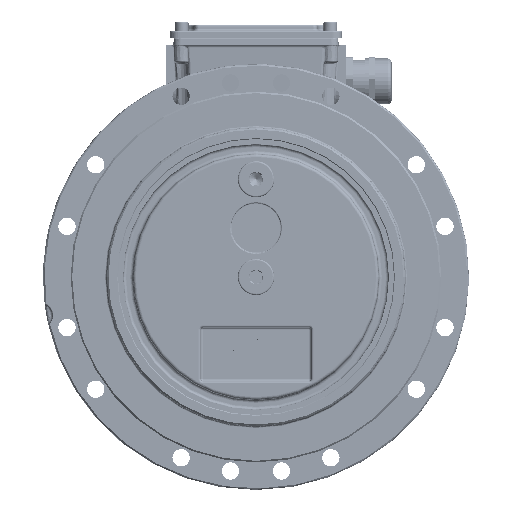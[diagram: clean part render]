
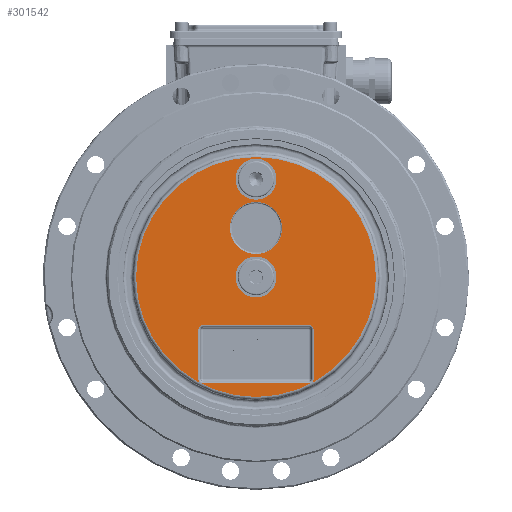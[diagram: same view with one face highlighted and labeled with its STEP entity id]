
A CAD part, front view. The second image highlights one B-rep face of the part: STEP entity #301542.
In plain terms, the highlighted planar face has unit normal (0, -1, 0).
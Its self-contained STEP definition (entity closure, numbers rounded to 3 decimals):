
#8701=PLANE('',#327935);
#18274=FACE_BOUND('',#95057,.T.);
#18275=FACE_BOUND('',#95058,.T.);
#18276=FACE_BOUND('',#95059,.T.);
#18277=FACE_BOUND('',#95060,.T.);
#35482=LINE('',#632447,#56949);
#35483=LINE('',#632451,#56950);
#35484=LINE('',#632455,#56951);
#35485=LINE('',#632459,#56952);
#56949=VECTOR('',#395384,1.);
#56950=VECTOR('',#395387,1.);
#56951=VECTOR('',#395390,1.);
#56952=VECTOR('',#395393,1.);
#77439=FACE_OUTER_BOUND('',#95056,.T.);
#95056=EDGE_LOOP('',(#245375));
#95057=EDGE_LOOP('',(#245376));
#95058=EDGE_LOOP('',(#245377));
#95059=EDGE_LOOP('',(#245378));
#95060=EDGE_LOOP('',(#245379,#245380,#245381,#245382,#245383,#245384,#245385,
#245386));
#112353=CIRCLE('',#327936,76.);
#112354=CIRCLE('',#327937,13.);
#112355=CIRCLE('',#327938,13.);
#112356=CIRCLE('',#327939,16.5);
#112357=CIRCLE('',#327940,3.);
#112358=CIRCLE('',#327941,3.);
#112359=CIRCLE('',#327942,3.);
#112360=CIRCLE('',#327943,3.);
#137322=VERTEX_POINT('',#632437);
#137323=VERTEX_POINT('',#632439);
#137324=VERTEX_POINT('',#632441);
#137325=VERTEX_POINT('',#632443);
#137326=VERTEX_POINT('',#632445);
#137327=VERTEX_POINT('',#632446);
#137328=VERTEX_POINT('',#632448);
#137329=VERTEX_POINT('',#632450);
#137330=VERTEX_POINT('',#632452);
#137331=VERTEX_POINT('',#632454);
#137332=VERTEX_POINT('',#632456);
#137333=VERTEX_POINT('',#632458);
#175362=EDGE_CURVE('',#137322,#137322,#112353,.T.);
#175363=EDGE_CURVE('',#137323,#137323,#112354,.T.);
#175364=EDGE_CURVE('',#137324,#137324,#112355,.T.);
#175365=EDGE_CURVE('',#137325,#137325,#112356,.T.);
#175366=EDGE_CURVE('',#137326,#137327,#35482,.T.);
#175367=EDGE_CURVE('',#137327,#137328,#112357,.T.);
#175368=EDGE_CURVE('',#137328,#137329,#35483,.T.);
#175369=EDGE_CURVE('',#137329,#137330,#112358,.T.);
#175370=EDGE_CURVE('',#137330,#137331,#35484,.T.);
#175371=EDGE_CURVE('',#137331,#137332,#112359,.T.);
#175372=EDGE_CURVE('',#137332,#137333,#35485,.T.);
#175373=EDGE_CURVE('',#137333,#137326,#112360,.T.);
#245375=ORIENTED_EDGE('',*,*,#175362,.T.);
#245376=ORIENTED_EDGE('',*,*,#175363,.T.);
#245377=ORIENTED_EDGE('',*,*,#175364,.T.);
#245378=ORIENTED_EDGE('',*,*,#175365,.T.);
#245379=ORIENTED_EDGE('',*,*,#175366,.T.);
#245380=ORIENTED_EDGE('',*,*,#175367,.T.);
#245381=ORIENTED_EDGE('',*,*,#175368,.T.);
#245382=ORIENTED_EDGE('',*,*,#175369,.T.);
#245383=ORIENTED_EDGE('',*,*,#175370,.T.);
#245384=ORIENTED_EDGE('',*,*,#175371,.T.);
#245385=ORIENTED_EDGE('',*,*,#175372,.T.);
#245386=ORIENTED_EDGE('',*,*,#175373,.T.);
#301542=ADVANCED_FACE('',(#77439,#18274,#18275,#18276,#18277),#8701,.T.);
#327935=AXIS2_PLACEMENT_3D('',#632436,#395374,#395375);
#327936=AXIS2_PLACEMENT_3D('',#632438,#395376,#395377);
#327937=AXIS2_PLACEMENT_3D('',#632440,#395378,#395379);
#327938=AXIS2_PLACEMENT_3D('',#632442,#395380,#395381);
#327939=AXIS2_PLACEMENT_3D('',#632444,#395382,#395383);
#327940=AXIS2_PLACEMENT_3D('',#632449,#395385,#395386);
#327941=AXIS2_PLACEMENT_3D('',#632453,#395388,#395389);
#327942=AXIS2_PLACEMENT_3D('',#632457,#395391,#395392);
#327943=AXIS2_PLACEMENT_3D('',#632460,#395394,#395395);
#395374=DIRECTION('center_axis',(0.,-1.,0.));
#395375=DIRECTION('ref_axis',(0.,0.,
1.));
#395376=DIRECTION('center_axis',(0.,-1.,0.));
#395377=DIRECTION('ref_axis',(0.,0.,
1.));
#395378=DIRECTION('center_axis',(0.,1.,0.));
#395379=DIRECTION('ref_axis',(0.,0.,
-1.));
#395380=DIRECTION('center_axis',(0.,1.,0.));
#395381=DIRECTION('ref_axis',(0.,0.,
-1.));
#395382=DIRECTION('center_axis',(0.,1.,0.));
#395383=DIRECTION('ref_axis',(0.,0.,
1.));
#395384=DIRECTION('',(0.,0.,-1.));
#395385=DIRECTION('center_axis',(0.,1.,0.));
#395386=DIRECTION('ref_axis',(0.,0.,
1.));
#395387=DIRECTION('',(-1.,0.,0.));
#395388=DIRECTION('center_axis',(0.,1.,0.));
#395389=DIRECTION('ref_axis',(0.,0.,
1.));
#395390=DIRECTION('',(0.,0.,1.));
#395391=DIRECTION('center_axis',(0.,1.,0.));
#395392=DIRECTION('ref_axis',(0.,0.,
1.));
#395393=DIRECTION('',(1.,0.,0.));
#395394=DIRECTION('center_axis',(0.,1.,0.));
#395395=DIRECTION('ref_axis',(0.,0.,
1.));
#632436=CARTESIAN_POINT('Origin',(-78.,-182.5,0.));
#632437=CARTESIAN_POINT('',(0.,-182.5,-76.));
#632438=CARTESIAN_POINT('Origin',(0.,-182.5,0.));
#632439=CARTESIAN_POINT('',(0.,-182.5,75.));
#632440=CARTESIAN_POINT('Origin',(0.,-182.5,62.));
#632441=CARTESIAN_POINT('',(0.,-182.5,13.));
#632442=CARTESIAN_POINT('Origin',(0.,-182.5,0.));
#632443=CARTESIAN_POINT('',(0.,-182.5,14.5));
#632444=CARTESIAN_POINT('Origin',(0.,-182.5,31.));
#632445=CARTESIAN_POINT('',(36.5,-182.5,-33.5));
#632446=CARTESIAN_POINT('',(36.5,-182.5,-64.5));
#632447=CARTESIAN_POINT('',(36.5,-182.5,0.));
#632448=CARTESIAN_POINT('',(33.5,-182.5,-67.5));
#632449=CARTESIAN_POINT('Origin',(33.5,-182.5,-64.5));
#632450=CARTESIAN_POINT('',(-33.5,-182.5,-67.5));
#632451=CARTESIAN_POINT('',(-78.,-182.5,-67.5));
#632452=CARTESIAN_POINT('',(-36.5,-182.5,-64.5));
#632453=CARTESIAN_POINT('Origin',(-33.5,-182.5,-64.5));
#632454=CARTESIAN_POINT('',(-36.5,-182.5,-33.5));
#632455=CARTESIAN_POINT('',(-36.5,-182.5,0.));
#632456=CARTESIAN_POINT('',(-33.5,-182.5,-30.5));
#632457=CARTESIAN_POINT('Origin',(-33.5,-182.5,-33.5));
#632458=CARTESIAN_POINT('',(33.5,-182.5,-30.5));
#632459=CARTESIAN_POINT('',(-78.,-182.5,-30.5));
#632460=CARTESIAN_POINT('Origin',(33.5,-182.5,-33.5));
